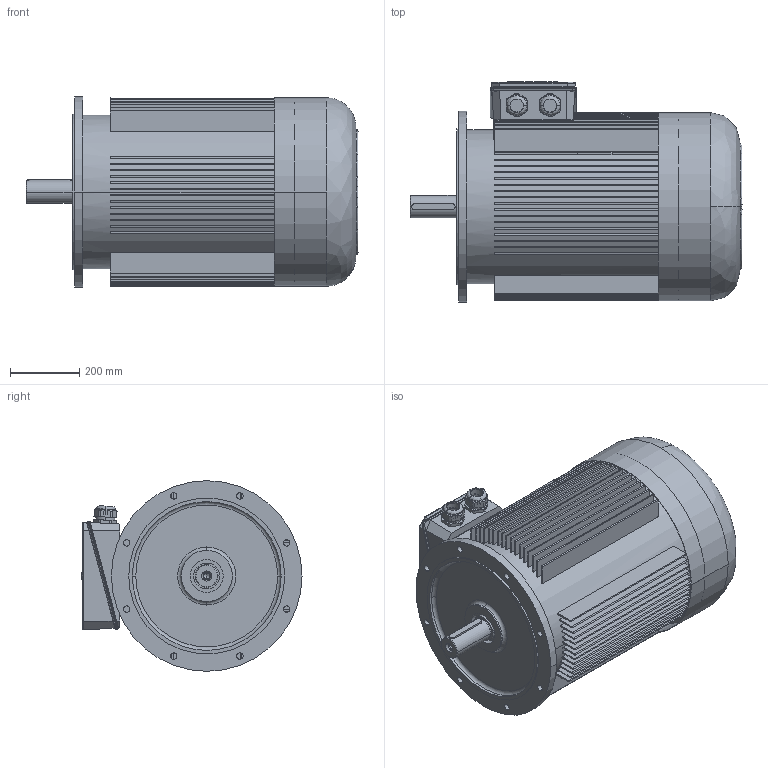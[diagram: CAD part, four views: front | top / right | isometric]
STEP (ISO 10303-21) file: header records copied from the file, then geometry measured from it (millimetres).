
FILE_DESCRIPTION (( 'STEP AP203' ), '1' );
FILE_NAME ('GM 280 M (2) FLANSLI (BICIM A-B5).stp', '2019-10-14T07:06:00', ( '' ), ( '' ), 'SwSTEP 2.0', 'SolidWorks 2019', '' );
FILE_SCHEMA (( 'CONFIG_CONTROL_DESIGN' ));
Length unit declared in the file: millimetre
Products named in the file (9): PG42 RAKOR; ~PART1; PART1; ~PART1_2; GM 280 M (2) FLANSLI (BICIM A-B5); ~PART1_3
Assembly tree (11 placements, depth 4):
  GM 280 M (2) FLANSLI (BICIM A-B5)
    PART1
    PG42 RAKOR
      ~PART1
        ~PART1_2
        ~PART1_3
        ~PART1
    PG42 RAKOR
      ~PART1
        ~PART1_2
        ~PART1_3
        ~PART1
Bounding box: 958 x 635 x 550 mm (x, y, z)
Volume: 154295169.2 mm3; surface area: 5252874.4 mm2
Topology: 7 solids, 7 shells, 1204 faces, 2991 edges, 1890 vertices
Faces by surface type: plane 630, cylinder 401, cone 100, bspline 63, torus 10
Entity records: 34282 total; most frequent: CARTESIAN_POINT 7504, DIRECTION 5431, ORIENTED_EDGE 5320, EDGE_CURVE 2660, AXIS2_PLACEMENT_3D 1867, VERTEX_POINT 1701, LINE 1697, VECTOR 1697
